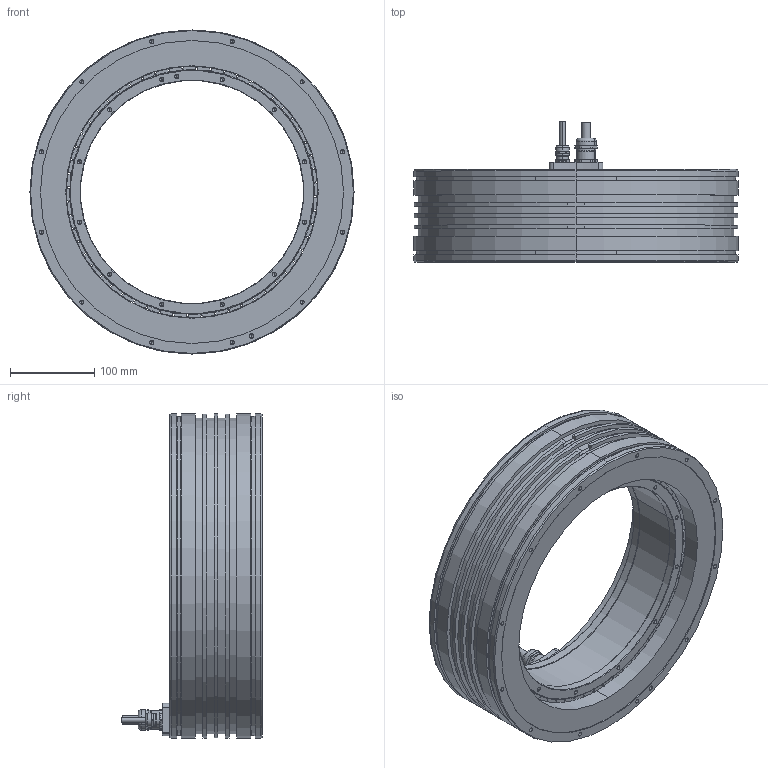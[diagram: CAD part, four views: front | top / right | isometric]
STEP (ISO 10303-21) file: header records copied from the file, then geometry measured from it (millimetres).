
FILE_DESCRIPTION (( 'STEP AP214' ), '1' );
FILE_NAME ('TORQUE KIT QMT HA 385-110-I-AX.STEP', '2025-09-12T07:58:34', ( '' ), ( '' ), 'SwSTEP 2.0', 'SolidWorks 2023', '' );
FILE_SCHEMA (( 'AUTOMOTIVE_DESIGN' ));
Length unit declared in the file: millimetre
Products named in the file (21): Cooling Ring; Cable Gland; Rotor; Stator; Resin; Cable Connection; Magnet; Rotor Glued; Screw; Housing-BO; Cable Clamp; Cable; Housing; TORQUE KIT QMT HA 385-110-I-AX; Rotor Ring
Assembly tree (76 placements, depth 6):
  TORQUE KIT QMT HA 385-110-I-AX
    Stator
      Stator
        Housing
          Housing-BO
            Cooling Ring
        Cable Connection
          Cable Connection
          Cable
          Cable
        Resin
      Cable Clamp
        Cable Clamp
        Cable Gland
        Cable Gland
      Screw  x3
    Rotor
      Rotor Glued
        Rotor Ring
        Magnet  x28
        Magnet  x28
Bounding box: 385 x 167.1 x 385 mm (x, y, z)
Volume: 5717669 mm3; surface area: 971829.5 mm2
Topology: 68 solids, 68 shells, 2562 faces, 5866 edges, 3207 vertices
Faces by surface type: cylinder 1100, sphere 560, plane 434, torus 252, cone 216
Entity records: 31535 total; most frequent: CARTESIAN_POINT 4604, DIRECTION 4582, ORIENTED_EDGE 3788, AXIS2_PLACEMENT_3D 1895, EDGE_CURVE 1894, VERTEX_POINT 1189, EDGE_LOOP 975, CIRCLE 974
